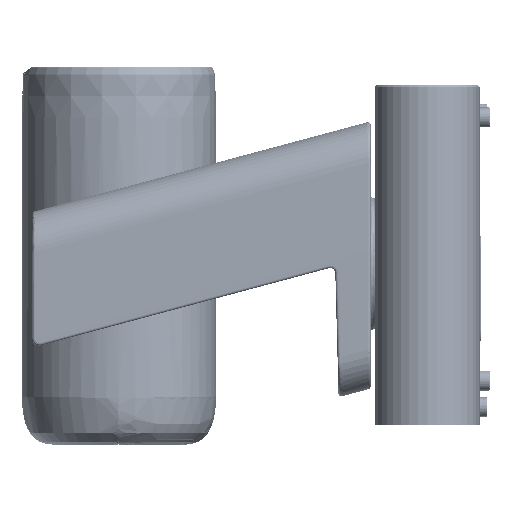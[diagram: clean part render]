
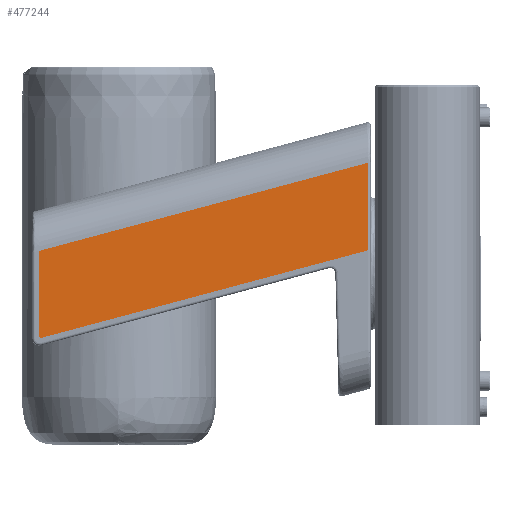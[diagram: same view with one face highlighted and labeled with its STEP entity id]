
A CAD part, left-side view. The second image highlights one B-rep face of the part: STEP entity #477244.
In plain terms, the highlighted planar face has unit normal (-1, 0, 0).
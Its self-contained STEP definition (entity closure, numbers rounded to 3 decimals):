
#9057 = ORIENTED_EDGE ( 'NONE', *, *, #375343, .F. ) ;
#17811 = VERTEX_POINT ( 'NONE', #455115 ) ;
#17929 = FACE_OUTER_BOUND ( 'NONE', #173398, .T. ) ;
#40788 = VERTEX_POINT ( 'NONE', #275158 ) ;
#60134 = EDGE_CURVE ( 'NONE', #40788, #17811, #375060, .T. ) ;
#82402 = ORIENTED_EDGE ( 'NONE', *, *, #133832, .F. ) ;
#96385 = DIRECTION ( 'NONE',  ( 0., -0.966, 0.259 ) ) ;
#133832 = EDGE_CURVE ( 'NONE', #17811, #314652, #423198, .T. ) ;
#144476 = DIRECTION ( 'NONE',  ( 0., 0., -1. ) ) ;
#155666 = CARTESIAN_POINT ( 'NONE',  ( -59.5, 22.9, -27.763 ) ) ;
#173398 = EDGE_LOOP ( 'NONE', ( #507993, #461006, #9057, #82402, #672170 ) ) ;
#179905 = AXIS2_PLACEMENT_3D ( 'NONE', #155666, #379385, #603084 ) ;
#186489 = DIRECTION ( 'NONE',  ( 0., 0., -1. ) ) ;
#192757 = LINE ( 'NONE', #416534, #243000 ) ;
#194007 = VECTOR ( 'NONE', #419163, 1000. ) ;
#195407 = CARTESIAN_POINT ( 'NONE',  ( -59.5, 23.9, 0. ) ) ;
#241529 = PLANE ( 'NONE',  #711228 ) ;
#243000 = VECTOR ( 'NONE', #640174, 1000. ) ;
#248908 = EDGE_CURVE ( 'NONE', #340745, #40788, #697830, .T. ) ;
#249557 = CARTESIAN_POINT ( 'NONE',  ( -59.5, -101.5, 4.76 ) ) ;
#265888 = VECTOR ( 'NONE', #96385, 1000. ) ;
#275158 = CARTESIAN_POINT ( 'NONE',  ( -59.5, 23.9, 4.567 ) ) ;
#314652 = VERTEX_POINT ( 'NONE', #249557 ) ;
#330152 = CARTESIAN_POINT ( 'NONE',  ( -59.5, 23.3, -28.68 ) ) ;
#340745 = VERTEX_POINT ( 'NONE', #715865 ) ;
#375060 = LINE ( 'NONE', #598725, #265888 ) ;
#375343 = EDGE_CURVE ( 'NONE', #314652, #483630, #192757, .T. ) ;
#379385 = DIRECTION ( 'NONE',  ( 1., 0., 0. ) ) ;
#416534 = CARTESIAN_POINT ( 'NONE',  ( -59.5, 24.073, -28.887 ) ) ;
#419163 = DIRECTION ( 'NONE',  ( 0., 0., 1. ) ) ;
#423198 = LINE ( 'NONE', #646851, #532276 ) ;
#455115 = CARTESIAN_POINT ( 'NONE',  ( -59.5, -101.5, 38.168 ) ) ;
#461006 = ORIENTED_EDGE ( 'NONE', *, *, #667815, .F. ) ;
#465347 = CARTESIAN_POINT ( 'NONE',  ( -59.5, 0., 0. ) ) ;
#477244 = ADVANCED_FACE ( 'NONE', ( #17929 ), #241529, .F. ) ;
#483630 = VERTEX_POINT ( 'NONE', #330152 ) ;
#496188 = CIRCLE ( 'NONE', #179905, 1. ) ;
#507993 = ORIENTED_EDGE ( 'NONE', *, *, #248908, .F. ) ;
#532276 = VECTOR ( 'NONE', #144476, 1000. ) ;
#598725 = CARTESIAN_POINT ( 'NONE',  ( -59.5, 23.9, 4.567 ) ) ;
#603084 = DIRECTION ( 'NONE',  ( 0., 0., 1. ) ) ;
#640174 = DIRECTION ( 'NONE',  ( 0., 0.966, -0.259 ) ) ;
#646851 = CARTESIAN_POINT ( 'NONE',  ( -59.5, -101.5, -49.088 ) ) ;
#667815 = EDGE_CURVE ( 'NONE', #483630, #340745, #496188, .T. ) ;
#672170 = ORIENTED_EDGE ( 'NONE', *, *, #60134, .F. ) ;
#688908 = DIRECTION ( 'NONE',  ( 1., 0., 0. ) ) ;
#697830 = LINE ( 'NONE', #195407, #194007 ) ;
#711228 = AXIS2_PLACEMENT_3D ( 'NONE', #465347, #688908, #186489 ) ;
#715865 = CARTESIAN_POINT ( 'NONE',  ( -59.5, 23.9, -27.763 ) ) ;
